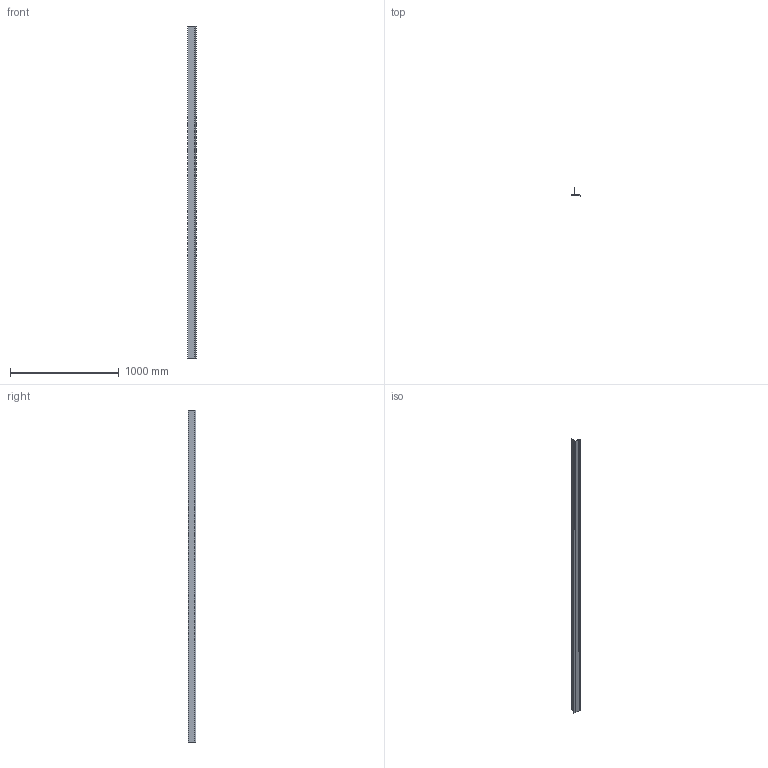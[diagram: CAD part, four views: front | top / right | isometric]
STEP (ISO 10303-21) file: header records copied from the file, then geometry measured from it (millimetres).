
FILE_DESCRIPTION(/* description */ (''),/* implementation_level */ '2;1');
FILE_NAME(/* name */ 'M56J.stp',/* time_stamp */ '2025-02-27T16:59:31-05:00',/* author */ ('samuel.gauthier'),/* organization */ (''),/* preprocessor_version */ 'ST-DEVELOPER v20',/* originating_system */ 'Autodesk Inventor 2025',/* authorisation */ '');
FILE_SCHEMA (('AUTOMOTIVE_DESIGN { 1 0 10303 214 3 1 1 }'));
Length unit declared in the file: inch
Products named in the file (1): M56J
Bounding box: 79.34 x 72.26 x 3048 mm (x, y, z)
Volume: 332387.9 mm3; surface area: 1311928.8 mm2
Topology: 1 solids, 1 shells, 26 faces, 72 edges, 48 vertices
Faces by surface type: plane 16, cylinder 10
Entity records: 881 total; most frequent: CARTESIAN_POINT 147, DIRECTION 146, ORIENTED_EDGE 144, EDGE_CURVE 72, LINE 52, VECTOR 52, VERTEX_POINT 48, AXIS2_PLACEMENT_3D 47
